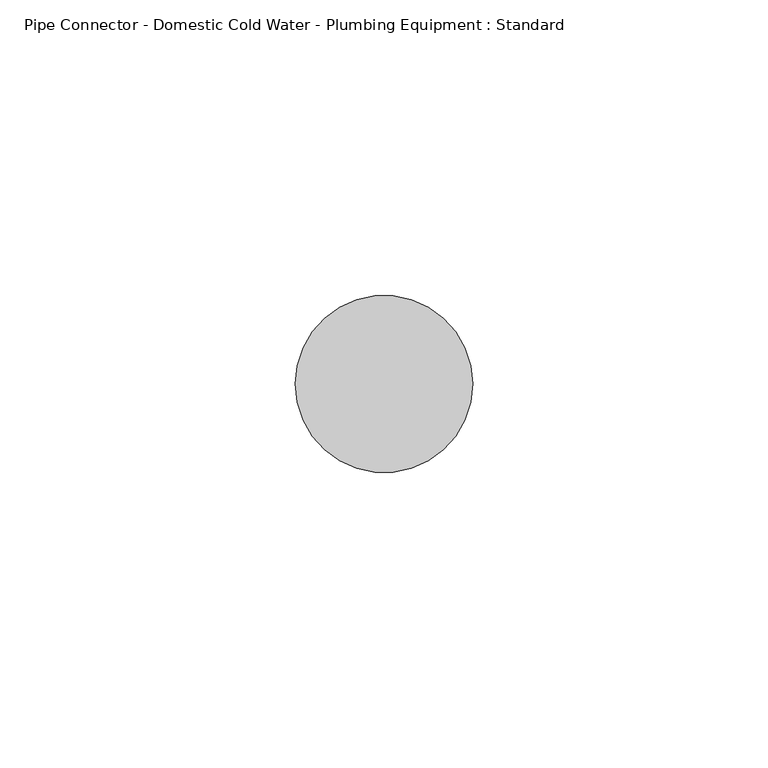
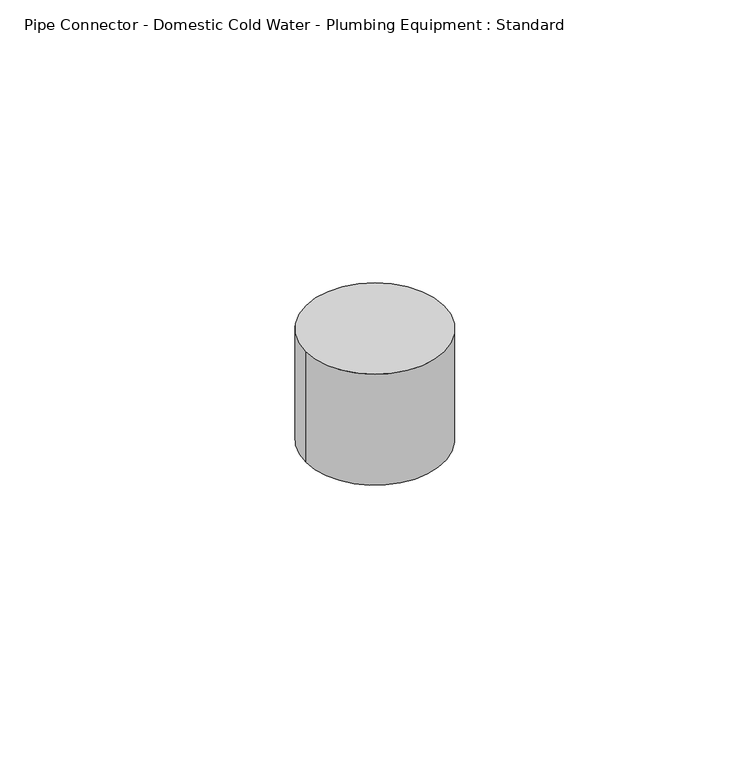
"""IFC4 building model written with IfcOpenShell, lengths in millimetres: proxy geometry, Pipe Connector - Domestic Cold Water - Plumbing Equipment : Standard."""

from ifc_helpers import new_model, si_unit, point, origin, origin_with_axes, origin_2d, place, context, project, spatial, circle_curve, trimmed, segment, composite_curve, outline, extrude, source, transform, mapped, element, save


def pipe_connector_domestic_cold_water_plumbing_equipment_dafda2e2(model_context):
    return source(origin(), model_context, "Body", "SweptSolid", [
        extrude(outline(composite_curve([segment(trimmed(circle_curve(origin_2d(), 15.0), [point((-15.0, 0.0))], [point((15.0, 0.0))], False, "CARTESIAN"), True, "CONTINUOUS"), segment(trimmed(circle_curve(origin_2d(), 15.0), [point((15.0, 0.0))], [point((-15.0, 0.0))], False, "CARTESIAN"), True, "CONTINUOUS")], self_intersect=False)), origin_with_axes(), (0.0, 0.0, 1.0), 25.4),
    ])


if __name__ == "__main__":
    model = new_model("IFC4")
    model_context = context("Model", 3, world=origin())
    ifc_project = project(units=[si_unit("LENGTHUNIT", "METRE", prefix="MILLI")], contexts=[model_context])
    site = spatial("IfcSite", under=ifc_project)
    building = spatial("IfcBuilding", under=site)
    placement = place(None, origin())
    pipe_connector_domestic_cold_water_plumbing_equipment_shape = pipe_connector_domestic_cold_water_plumbing_equipment_dafda2e2(model_context)
    element("IfcBuildingElementProxy", 1, Name="Pipe Connector - Domestic Cold Water - Plumbing Equipment : Standard", ObjectType="Pipe Connector - Domestic Cold Water - Plumbing Equipment : Standard", at=placement, inside=building, context=model_context, shape_type="MappedRepresentation", body=[
        mapped(pipe_connector_domestic_cold_water_plumbing_equipment_shape, transform((0.0, 0.0, 0.0), x_axis=(1.0, 0.0, 0.0), y_axis=(0.0, 1.0, 0.0), z_axis=(0.0, 0.0, 1.0))),
    ])
    save(model, "model.ifc")
